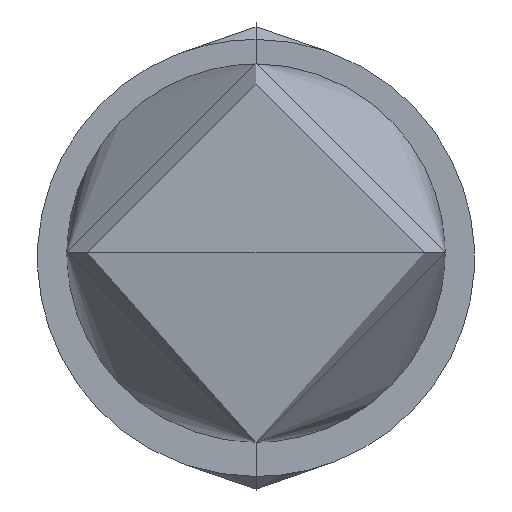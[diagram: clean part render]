
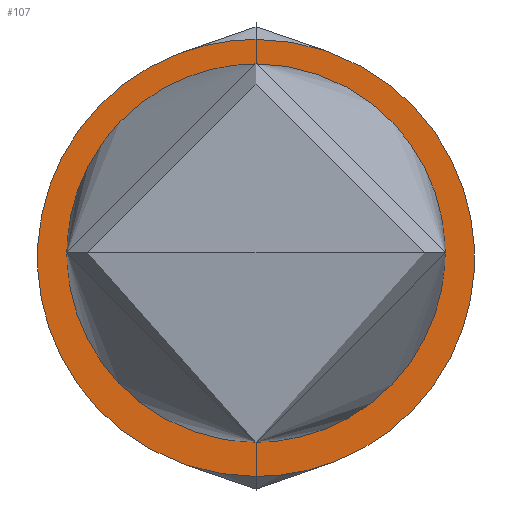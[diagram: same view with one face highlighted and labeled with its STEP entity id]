
A CAD part, top view. The second image highlights one B-rep face of the part: STEP entity #107.
In plain terms, the highlighted planar face has unit normal (0, 0, 1).
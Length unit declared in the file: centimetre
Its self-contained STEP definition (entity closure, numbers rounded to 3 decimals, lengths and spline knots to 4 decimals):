
#33=FACE_BOUND('',#237,.T.);
#107=ADVANCED_FACE('',(#170,#33),#796,.T.);
#170=FACE_OUTER_BOUND('',#236,.T.);
#236=EDGE_LOOP('',(#360,#361));
#237=EDGE_LOOP('',(#362,#363));
#360=ORIENTED_EDGE('',*,*,#557,.F.);
#361=ORIENTED_EDGE('',*,*,#543,.F.);
#362=ORIENTED_EDGE('',*,*,#537,.T.);
#363=ORIENTED_EDGE('',*,*,#553,.T.);
#537=EDGE_CURVE('',#731,#740,#646,.T.);
#543=EDGE_CURVE('',#734,#743,#650,.T.);
#553=EDGE_CURVE('',#740,#731,#657,.T.);
#557=EDGE_CURVE('',#743,#734,#660,.T.);
#646=(
BOUNDED_CURVE()
B_SPLINE_CURVE(2,(#1329,#1330,#1331,#1332,#1333),.UNSPECIFIED.,.F.,.F.)
B_SPLINE_CURVE_WITH_KNOTS((3,2,3),(-113.0973,-84.823,
-56.5487),.UNSPECIFIED.)
CURVE()
GEOMETRIC_REPRESENTATION_ITEM()
RATIONAL_B_SPLINE_CURVE((1.,0.707,1.,0.707,1.))
REPRESENTATION_ITEM('')
);
#650=(
BOUNDED_CURVE()
B_SPLINE_CURVE(2,(#1353,#1354,#1355,#1356,#1357),.UNSPECIFIED.,.F.,.F.)
B_SPLINE_CURVE_WITH_KNOTS((3,2,3),(163.3628,245.0442,326.7256),
 .UNSPECIFIED.)
CURVE()
GEOMETRIC_REPRESENTATION_ITEM()
RATIONAL_B_SPLINE_CURVE((1.,0.707,1.,0.707,1.))
REPRESENTATION_ITEM('')
);
#657=(
BOUNDED_CURVE()
B_SPLINE_CURVE(2,(#1392,#1393,#1394,#1395,#1396),.UNSPECIFIED.,.F.,.F.)
B_SPLINE_CURVE_WITH_KNOTS((3,2,3),(-56.5487,-28.2743,
0.),.UNSPECIFIED.)
CURVE()
GEOMETRIC_REPRESENTATION_ITEM()
RATIONAL_B_SPLINE_CURVE((1.,0.707,1.,0.707,1.))
REPRESENTATION_ITEM('')
);
#660=(
BOUNDED_CURVE()
B_SPLINE_CURVE(2,(#1407,#1408,#1409,#1410,#1411),.UNSPECIFIED.,.F.,.F.)
B_SPLINE_CURVE_WITH_KNOTS((3,2,3),(326.7256,408.407,490.0885),
 .UNSPECIFIED.)
CURVE()
GEOMETRIC_REPRESENTATION_ITEM()
RATIONAL_B_SPLINE_CURVE((1.,0.707,1.,0.707,1.))
REPRESENTATION_ITEM('')
);
#731=VERTEX_POINT('',#1307);
#734=VERTEX_POINT('',#1310);
#740=VERTEX_POINT('',#1316);
#743=VERTEX_POINT('',#1319);
#796=PLANE('',#950);
#950=AXIS2_PLACEMENT_3D('',#1253,#1007,$);
#1007=DIRECTION('',(0.,0.,1.));
#1253=CARTESIAN_POINT('',(529.8869,648.9197,136.895));
#1307=CARTESIAN_POINT('',(563.8969,596.9097,136.895));
#1310=CARTESIAN_POINT('',(581.8969,544.9097,136.895));
#1316=CARTESIAN_POINT('',(599.8969,596.9097,136.895));
#1319=CARTESIAN_POINT('',(581.8969,648.9097,136.895));
#1329=CARTESIAN_POINT('',(563.8969,596.9097,136.895));
#1330=CARTESIAN_POINT('',(563.8969,614.9097,136.895));
#1331=CARTESIAN_POINT('',(581.8969,614.9097,136.895));
#1332=CARTESIAN_POINT('',(599.8969,614.9097,136.895));
#1333=CARTESIAN_POINT('',(599.8969,596.9097,136.895));
#1353=CARTESIAN_POINT('',(581.8969,544.9097,136.895));
#1354=CARTESIAN_POINT('',(529.8969,544.9097,136.895));
#1355=CARTESIAN_POINT('',(529.8969,596.9097,136.895));
#1356=CARTESIAN_POINT('',(529.8969,648.9097,136.895));
#1357=CARTESIAN_POINT('',(581.8969,648.9097,136.895));
#1392=CARTESIAN_POINT('',(599.8969,596.9097,136.895));
#1393=CARTESIAN_POINT('',(599.8969,578.9097,136.895));
#1394=CARTESIAN_POINT('',(581.8969,578.9097,136.895));
#1395=CARTESIAN_POINT('',(563.8969,578.9097,136.895));
#1396=CARTESIAN_POINT('',(563.8969,596.9097,136.895));
#1407=CARTESIAN_POINT('',(581.8969,648.9097,136.895));
#1408=CARTESIAN_POINT('',(633.8969,648.9097,136.895));
#1409=CARTESIAN_POINT('',(633.8969,596.9097,136.895));
#1410=CARTESIAN_POINT('',(633.8969,544.9097,136.895));
#1411=CARTESIAN_POINT('',(581.8969,544.9097,136.895));
